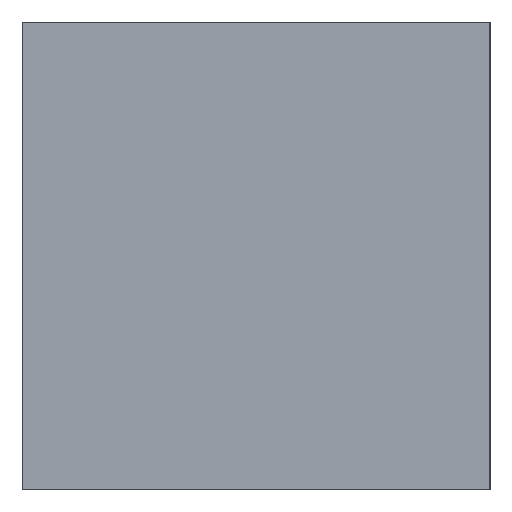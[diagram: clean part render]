
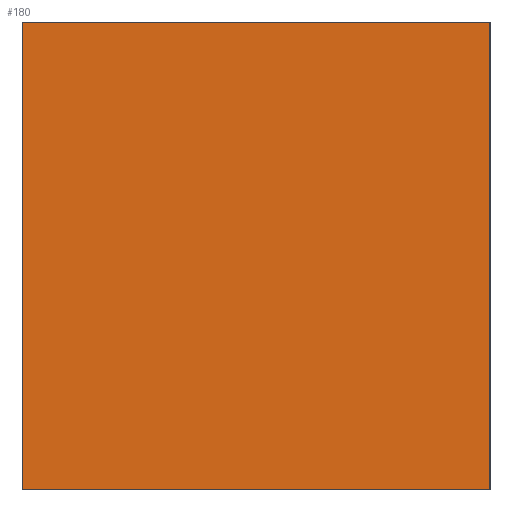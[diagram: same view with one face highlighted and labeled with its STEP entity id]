
A CAD part, left-side view. The second image highlights one B-rep face of the part: STEP entity #180.
In plain terms, the highlighted planar face has unit normal (-1, 0, 0).
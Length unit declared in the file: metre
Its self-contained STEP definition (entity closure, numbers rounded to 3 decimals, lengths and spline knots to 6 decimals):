
#180 = ADVANCED_FACE('',(#181),#195,.F.);
#181 = FACE_BOUND('',#182,.F.);
#182 = EDGE_LOOP('',(#183,#218,#246,#274));
#183 = ORIENTED_EDGE('',*,*,#184,.F.);
#184 = EDGE_CURVE('',#185,#187,#189,.T.);
#185 = VERTEX_POINT('',#186);
#186 = CARTESIAN_POINT('',(-0.000008,-0.000006,-0.000006));
#187 = VERTEX_POINT('',#188);
#188 = CARTESIAN_POINT('',(-0.000008,-0.000006,0.000006));
#189 = SURFACE_CURVE('',#190,(#194,#206),.PCURVE_S1.);
#190 = LINE('',#191,#192);
#191 = CARTESIAN_POINT('',(-0.000008,-0.000006,-0.000006));
#192 = VECTOR('',#193,0.001);
#193 = DIRECTION('',(0.,0.,1.));
#194 = PCURVE('',#195,#200);
#195 = PLANE('',#196);
#196 = AXIS2_PLACEMENT_3D('',#197,#198,#199);
#197 = CARTESIAN_POINT('',(-0.000008,-0.000006,-0.000006));
#198 = DIRECTION('',(1.,0.,0.));
#199 = DIRECTION('',(0.,0.,1.));
#200 = DEFINITIONAL_REPRESENTATION('',(#201),#205);
#201 = LINE('',#202,#203);
#202 = CARTESIAN_POINT('',(0.,0.));
#203 = VECTOR('',#204,1.);
#204 = DIRECTION('',(1.,0.));
#205 = ( GEOMETRIC_REPRESENTATION_CONTEXT(2) 
PARAMETRIC_REPRESENTATION_CONTEXT() REPRESENTATION_CONTEXT('2D SPACE',''
  ) );
#206 = PCURVE('',#207,#212);
#207 = PLANE('',#208);
#208 = AXIS2_PLACEMENT_3D('',#209,#210,#211);
#209 = CARTESIAN_POINT('',(-0.000008,-0.000006,-0.000006));
#210 = DIRECTION('',(0.,1.,0.));
#211 = DIRECTION('',(0.,0.,1.));
#212 = DEFINITIONAL_REPRESENTATION('',(#213),#217);
#213 = LINE('',#214,#215);
#214 = CARTESIAN_POINT('',(0.,0.));
#215 = VECTOR('',#216,1.);
#216 = DIRECTION('',(1.,0.));
#217 = ( GEOMETRIC_REPRESENTATION_CONTEXT(2) 
PARAMETRIC_REPRESENTATION_CONTEXT() REPRESENTATION_CONTEXT('2D SPACE',''
  ) );
#218 = ORIENTED_EDGE('',*,*,#219,.T.);
#219 = EDGE_CURVE('',#185,#220,#222,.T.);
#220 = VERTEX_POINT('',#221);
#221 = CARTESIAN_POINT('',(-0.000008,0.000006,-0.000006));
#222 = SURFACE_CURVE('',#223,(#227,#234),.PCURVE_S1.);
#223 = LINE('',#224,#225);
#224 = CARTESIAN_POINT('',(-0.000008,-0.000006,-0.000006));
#225 = VECTOR('',#226,0.001);
#226 = DIRECTION('',(0.,1.,0.));
#227 = PCURVE('',#195,#228);
#228 = DEFINITIONAL_REPRESENTATION('',(#229),#233);
#229 = LINE('',#230,#231);
#230 = CARTESIAN_POINT('',(0.,0.));
#231 = VECTOR('',#232,1.);
#232 = DIRECTION('',(0.,-1.));
#233 = ( GEOMETRIC_REPRESENTATION_CONTEXT(2) 
PARAMETRIC_REPRESENTATION_CONTEXT() REPRESENTATION_CONTEXT('2D SPACE',''
  ) );
#234 = PCURVE('',#235,#240);
#235 = PLANE('',#236);
#236 = AXIS2_PLACEMENT_3D('',#237,#238,#239);
#237 = CARTESIAN_POINT('',(-0.000008,-0.000006,-0.000006));
#238 = DIRECTION('',(0.,0.,1.));
#239 = DIRECTION('',(1.,0.,0.));
#240 = DEFINITIONAL_REPRESENTATION('',(#241),#245);
#241 = LINE('',#242,#243);
#242 = CARTESIAN_POINT('',(0.,0.));
#243 = VECTOR('',#244,1.);
#244 = DIRECTION('',(0.,1.));
#245 = ( GEOMETRIC_REPRESENTATION_CONTEXT(2) 
PARAMETRIC_REPRESENTATION_CONTEXT() REPRESENTATION_CONTEXT('2D SPACE',''
  ) );
#246 = ORIENTED_EDGE('',*,*,#247,.T.);
#247 = EDGE_CURVE('',#220,#248,#250,.T.);
#248 = VERTEX_POINT('',#249);
#249 = CARTESIAN_POINT('',(-0.000008,0.000006,0.000006));
#250 = SURFACE_CURVE('',#251,(#255,#262),.PCURVE_S1.);
#251 = LINE('',#252,#253);
#252 = CARTESIAN_POINT('',(-0.000008,0.000006,-0.000006));
#253 = VECTOR('',#254,0.001);
#254 = DIRECTION('',(0.,0.,1.));
#255 = PCURVE('',#195,#256);
#256 = DEFINITIONAL_REPRESENTATION('',(#257),#261);
#257 = LINE('',#258,#259);
#258 = CARTESIAN_POINT('',(0.,0.));
#259 = VECTOR('',#260,1.);
#260 = DIRECTION('',(1.,0.));
#261 = ( GEOMETRIC_REPRESENTATION_CONTEXT(2) 
PARAMETRIC_REPRESENTATION_CONTEXT() REPRESENTATION_CONTEXT('2D SPACE',''
  ) );
#262 = PCURVE('',#263,#268);
#263 = PLANE('',#264);
#264 = AXIS2_PLACEMENT_3D('',#265,#266,#267);
#265 = CARTESIAN_POINT('',(-0.000008,0.000006,-0.000006));
#266 = DIRECTION('',(0.,1.,0.));
#267 = DIRECTION('',(0.,0.,1.));
#268 = DEFINITIONAL_REPRESENTATION('',(#269),#273);
#269 = LINE('',#270,#271);
#270 = CARTESIAN_POINT('',(0.,0.));
#271 = VECTOR('',#272,1.);
#272 = DIRECTION('',(1.,0.));
#273 = ( GEOMETRIC_REPRESENTATION_CONTEXT(2) 
PARAMETRIC_REPRESENTATION_CONTEXT() REPRESENTATION_CONTEXT('2D SPACE',''
  ) );
#274 = ORIENTED_EDGE('',*,*,#275,.F.);
#275 = EDGE_CURVE('',#187,#248,#276,.T.);
#276 = SURFACE_CURVE('',#277,(#281,#288),.PCURVE_S1.);
#277 = LINE('',#278,#279);
#278 = CARTESIAN_POINT('',(-0.000008,-0.000006,0.000006));
#279 = VECTOR('',#280,0.001);
#280 = DIRECTION('',(0.,1.,0.));
#281 = PCURVE('',#195,#282);
#282 = DEFINITIONAL_REPRESENTATION('',(#283),#287);
#283 = LINE('',#284,#285);
#284 = CARTESIAN_POINT('',(0.,0.));
#285 = VECTOR('',#286,1.);
#286 = DIRECTION('',(0.,-1.));
#287 = ( GEOMETRIC_REPRESENTATION_CONTEXT(2) 
PARAMETRIC_REPRESENTATION_CONTEXT() REPRESENTATION_CONTEXT('2D SPACE',''
  ) );
#288 = PCURVE('',#289,#294);
#289 = PLANE('',#290);
#290 = AXIS2_PLACEMENT_3D('',#291,#292,#293);
#291 = CARTESIAN_POINT('',(-0.000008,-0.000006,0.000006));
#292 = DIRECTION('',(0.,0.,1.));
#293 = DIRECTION('',(1.,0.,0.));
#294 = DEFINITIONAL_REPRESENTATION('',(#295),#299);
#295 = LINE('',#296,#297);
#296 = CARTESIAN_POINT('',(0.,0.));
#297 = VECTOR('',#298,1.);
#298 = DIRECTION('',(0.,1.));
#299 = ( GEOMETRIC_REPRESENTATION_CONTEXT(2) 
PARAMETRIC_REPRESENTATION_CONTEXT() REPRESENTATION_CONTEXT('2D SPACE',''
  ) );
